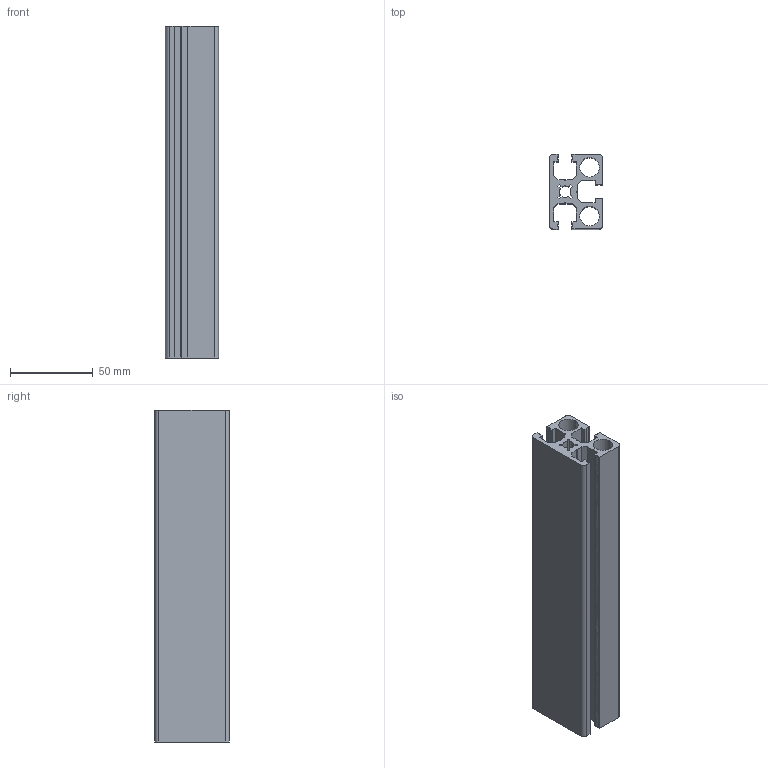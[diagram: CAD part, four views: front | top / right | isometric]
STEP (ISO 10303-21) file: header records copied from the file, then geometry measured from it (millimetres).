
FILE_DESCRIPTION (( 'STEP AP203' ), '1' );
FILE_NAME ('006509 REF 3245.STEP', '2015-12-01T11:54:16', ( '' ), ( '' ), 'SwSTEP 2.0', 'SolidWorks 2015', '' );
FILE_SCHEMA (( 'CONFIG_CONTROL_DESIGN' ));
Length unit declared in the file: millimetre
Products named in the file (1): 006509 REF 3245
Bounding box: 32 x 45.09 x 200 mm (x, y, z)
Volume: 126334.1 mm3; surface area: 77334.9 mm2
Topology: 1 solids, 1 shells, 86 faces, 252 edges, 168 vertices
Faces by surface type: plane 57, cylinder 23, bspline 6
Entity records: 2973 total; most frequent: CARTESIAN_POINT 609, ORIENTED_EDGE 504, DIRECTION 448, EDGE_CURVE 252, LINE 194, VECTOR 194, VERTEX_POINT 168, AXIS2_PLACEMENT_3D 127
